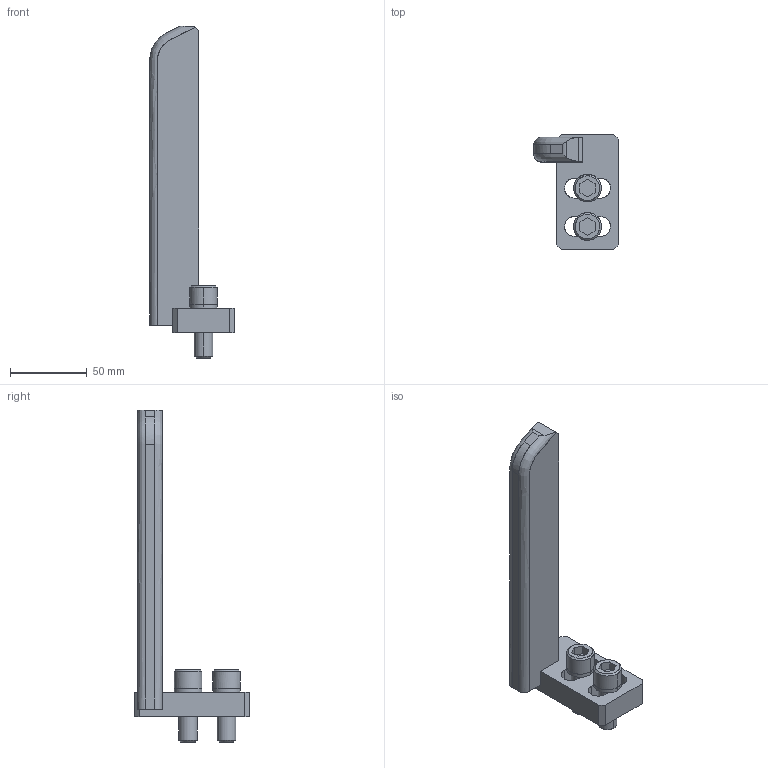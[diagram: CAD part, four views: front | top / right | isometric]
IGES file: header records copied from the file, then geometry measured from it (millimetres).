
Global section: file name: E:\UnigraphicsGraphicData\MISUMI_PRESS-PARTS\IGES\3d_nggbr-200-190-20_01500_r00.igs; native system: NX V5.0; preprocessor: UGS NX IGES V5.0; author: MISUMI; date: 20110105.162036; units: millimetre
Bounding box: 55 x 75 x 216.5 mm (x, y, z)
Surface area: 36006.2 mm2 (no closed solid volume)
Topology: 0 solids, 0 shells, 103 faces, 660 edges, 660 vertices
Faces by surface type: bspline 103
